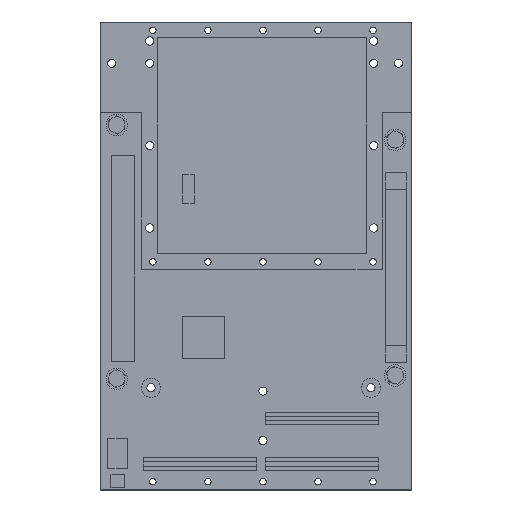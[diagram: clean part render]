
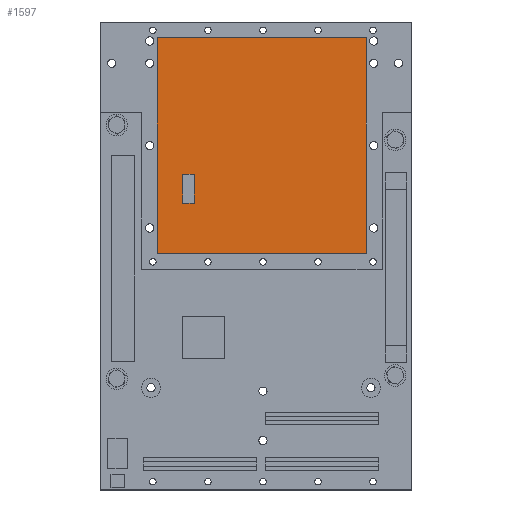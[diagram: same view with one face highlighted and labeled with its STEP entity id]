
A CAD part, top view. The second image highlights one B-rep face of the part: STEP entity #1597.
In plain terms, the highlighted planar face has unit normal (0, 0, 1).
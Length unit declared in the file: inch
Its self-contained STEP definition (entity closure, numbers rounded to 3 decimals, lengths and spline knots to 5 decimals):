
#3 = CARTESIAN_POINT ( 'NONE',  ( 0., 2.65, 0.06 ) ) ;
#52 = LINE ( 'NONE', #80, #4887 ) ;
#80 = CARTESIAN_POINT ( 'NONE',  ( -1.2, 0., 0.06 ) ) ;
#109 = DIRECTION ( 'NONE',  ( 0., 1., 0. ) ) ;
#359 = VERTEX_POINT ( 'NONE', #1821 ) ;
#391 = LINE ( 'NONE', #2063, #1884 ) ;
#772 = EDGE_LOOP ( 'NONE', ( #5363, #2521, #2531, #1683 ) ) ;
#1066 = CARTESIAN_POINT ( 'NONE',  ( 1.34, 0., 0.06 ) ) ;
#1080 = VERTEX_POINT ( 'NONE', #5103 ) ;
#1552 = FACE_OUTER_BOUND ( 'NONE', #772, .T. ) ;
#1597 = ADVANCED_FACE ( 'NONE', ( #1552 ), #5338, .T. ) ;
#1646 = DIRECTION ( 'NONE',  ( 1., 0., 0. ) ) ;
#1671 = VECTOR ( 'NONE', #1646, 39.37008 ) ;
#1683 = ORIENTED_EDGE ( 'NONE', *, *, #4313, .F. ) ;
#1776 = CARTESIAN_POINT ( 'NONE',  ( 1.34, 2.65, 0.06 ) ) ;
#1821 = CARTESIAN_POINT ( 'NONE',  ( 1.34, 0.03, 0.06 ) ) ;
#1884 = VECTOR ( 'NONE', #3336, 39.37008 ) ;
#1902 = DIRECTION ( 'NONE',  ( 0., 0., 1. ) ) ;
#2063 = CARTESIAN_POINT ( 'NONE',  ( 0., 0.03, 0.06 ) ) ;
#2084 = EDGE_CURVE ( 'NONE', #359, #5070, #391, .T. ) ;
#2521 = ORIENTED_EDGE ( 'NONE', *, *, #2084, .F. ) ;
#2531 = ORIENTED_EDGE ( 'NONE', *, *, #2536, .F. ) ;
#2536 = EDGE_CURVE ( 'NONE', #4557, #359, #3147, .T. ) ;
#2755 = AXIS2_PLACEMENT_3D ( 'NONE', #3550, #1902, #3224 ) ;
#2840 = LINE ( 'NONE', #3, #1671 ) ;
#3147 = LINE ( 'NONE', #1066, #3396 ) ;
#3224 = DIRECTION ( 'NONE',  ( 1., 0., 0. ) ) ;
#3272 = EDGE_CURVE ( 'NONE', #5070, #1080, #52, .T. ) ;
#3336 = DIRECTION ( 'NONE',  ( -1., 0., 0. ) ) ;
#3396 = VECTOR ( 'NONE', #4392, 39.37008 ) ;
#3550 = CARTESIAN_POINT ( 'NONE',  ( 0., 0., 0.06 ) ) ;
#3860 = CARTESIAN_POINT ( 'NONE',  ( -1.2, 0.03, 0.06 ) ) ;
#4313 = EDGE_CURVE ( 'NONE', #1080, #4557, #2840, .T. ) ;
#4392 = DIRECTION ( 'NONE',  ( 0., -1., 0. ) ) ;
#4557 = VERTEX_POINT ( 'NONE', #1776 ) ;
#4887 = VECTOR ( 'NONE', #109, 39.37008 ) ;
#5070 = VERTEX_POINT ( 'NONE', #3860 ) ;
#5103 = CARTESIAN_POINT ( 'NONE',  ( -1.2, 2.65, 0.06 ) ) ;
#5338 = PLANE ( 'NONE',  #2755 ) ;
#5363 = ORIENTED_EDGE ( 'NONE', *, *, #3272, .F. ) ;
